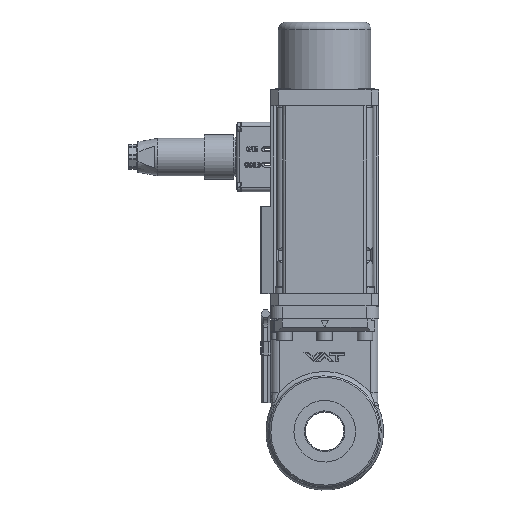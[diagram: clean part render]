
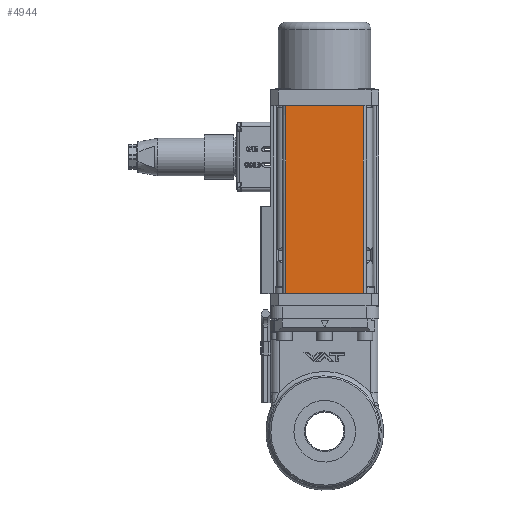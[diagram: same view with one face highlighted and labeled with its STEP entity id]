
A CAD part, top view. The second image highlights one B-rep face of the part: STEP entity #4944.
In plain terms, the highlighted planar face has unit normal (0, 0, 1) as drawn and (0, -1, 0) by its records, which use the part's own axes.
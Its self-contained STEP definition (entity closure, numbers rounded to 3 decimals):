
#4183=FACE_OUTER_BOUND('',#10021,.T.);
#4944=ADVANCED_FACE('',(#4183),#5951,.F.);
#5951=PLANE('',#21369);
#6626=LINE('',#28809,#7913);
#6650=LINE('',#28891,#7937);
#6655=LINE('',#28915,#7942);
#6656=LINE('',#28917,#7943);
#7913=VECTOR('',#23356,1.);
#7937=VECTOR('',#23440,1.);
#7942=VECTOR('',#23467,1.);
#7943=VECTOR('',#23470,1.);
#10021=EDGE_LOOP('',(#11912,#11913,#11914,#11915));
#11912=ORIENTED_EDGE('',*,*,#18328,.F.);
#11913=ORIENTED_EDGE('',*,*,#18341,.F.);
#11914=ORIENTED_EDGE('',*,*,#18284,.T.);
#11915=ORIENTED_EDGE('',*,*,#18342,.T.);
#16470=VERTEX_POINT('',#28808);
#16471=VERTEX_POINT('',#28810);
#16498=VERTEX_POINT('',#28890);
#16499=VERTEX_POINT('',#28892);
#18284=EDGE_CURVE('',#16471,#16470,#6626,.T.);
#18328=EDGE_CURVE('',#16498,#16499,#6650,.T.);
#18341=EDGE_CURVE('',#16471,#16498,#6655,.T.);
#18342=EDGE_CURVE('',#16470,#16499,#6656,.T.);
#21369=AXIS2_PLACEMENT_3D('',#28918,#23471,#23472);
#23356=DIRECTION('',(1.,0.,0.));
#23440=DIRECTION('',(1.,0.,0.));
#23467=DIRECTION('',(0.,0.,1.));
#23470=DIRECTION('',(0.,0.,1.));
#23471=DIRECTION('',(0.,1.,0.));
#23472=DIRECTION('',(0.,0.,-1.));
#28808=CARTESIAN_POINT('',(25.079,-35.,-121.65));
#28809=CARTESIAN_POINT('',(-25.079,-35.,-121.65));
#28810=CARTESIAN_POINT('',(-25.079,-35.,-121.65));
#28890=CARTESIAN_POINT('',(-25.079,-35.,0.));
#28891=CARTESIAN_POINT('',(-25.079,-35.,0.));
#28892=CARTESIAN_POINT('',(25.079,-35.,0.));
#28915=CARTESIAN_POINT('',(-25.079,-35.,-121.65));
#28917=CARTESIAN_POINT('',(25.079,-35.,-121.65));
#28918=CARTESIAN_POINT('',(-25.079,-35.,-121.65));
